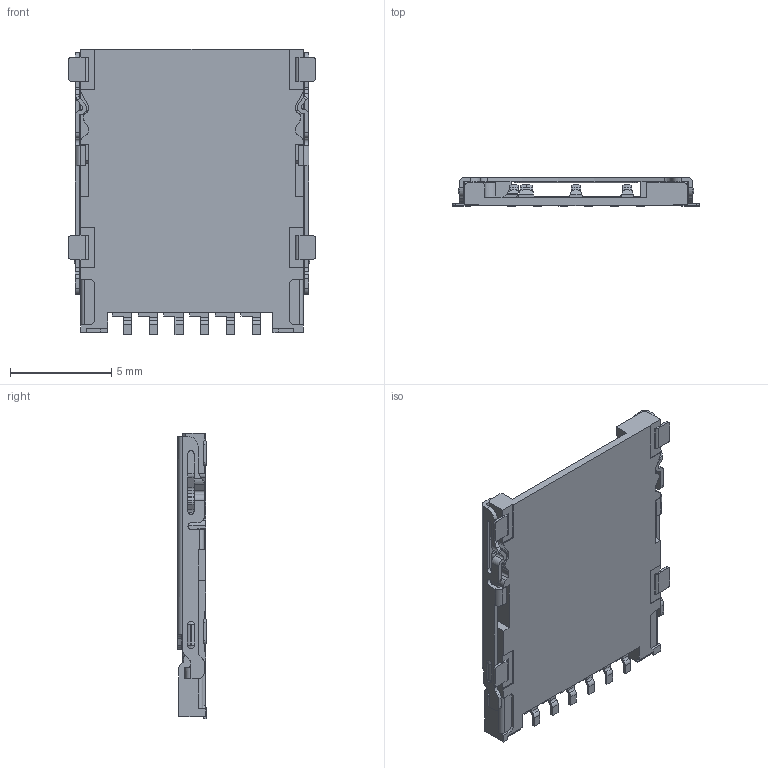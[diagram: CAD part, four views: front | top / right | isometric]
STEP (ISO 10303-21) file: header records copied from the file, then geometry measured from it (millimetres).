
FILE_DESCRIPTION((''),'2;1');
FILE_NAME('C-2452796-1','2023-06-20T10:05:40',('workeradm'),('TE Connectivity Ltd.'),'CREO PARAMETRIC BY PTC INC, 2021072','CREO PARAMETRIC BY PTC INC, 2021072','');
FILE_SCHEMA(('AUTOMOTIVE_DESIGN { 1 0 10303 214 1 1 1 1 }'));
Length unit declared in the file: millimetre
Products named in the file (1): C-2452796-1
Bounding box: 12.2 x 1.4 x 14.1 mm (x, y, z)
Volume: 101.6 mm3; surface area: 647.9 mm2
Topology: 1 solids, 3 shells, 650 faces, 1849 edges, 1220 vertices
Faces by surface type: plane 392, cylinder 200, bspline 23, cone 19, torus 16
Entity records: 22117 total; most frequent: CARTESIAN_POINT 4968, ORIENTED_EDGE 3698, DIRECTION 3387, EDGE_CURVE 1849, VECTOR 1291, LINE 1291, VERTEX_POINT 1220, AXIS2_PLACEMENT_3D 1048
